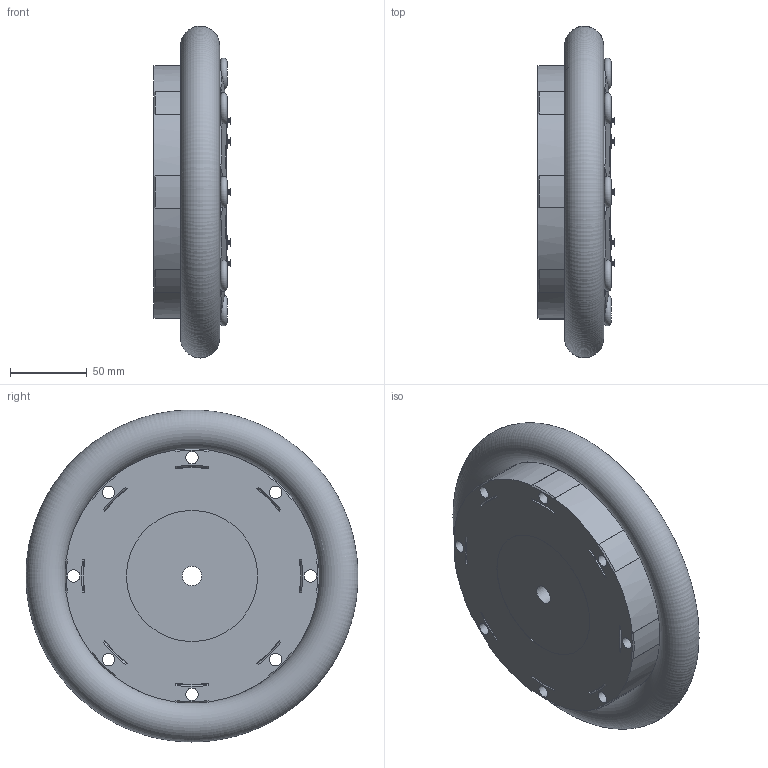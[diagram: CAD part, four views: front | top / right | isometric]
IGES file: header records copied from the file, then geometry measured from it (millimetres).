
Start section: C
Global section: file name: TILTON 6553HSG-P.igs; native system: By Siemens PLM Incorporated; preprocessor: XPlus GENERIC/IGES 16.0.42; author: Author; organization: Title; date: 20150129.152657; units: inch
Bounding box: 49.82 x 216.71 x 216.74 mm (x, y, z)
Surface area: 522101.3 mm2 (no closed solid volume)
Topology: 0 solids, 9 shells, 827 faces, 2405 edges, 1594 vertices
Faces by surface type: cylinder 403, plane 356, torus 34, cone 34
Full cylindrical faces by diameter (mm): 0.508 x8, 4.902 x8, 8.077 x8, 9.169 x8, 12.7 x1, 71.095 x1, 85.674 x1, 87.376 x1, 142.697 x1
